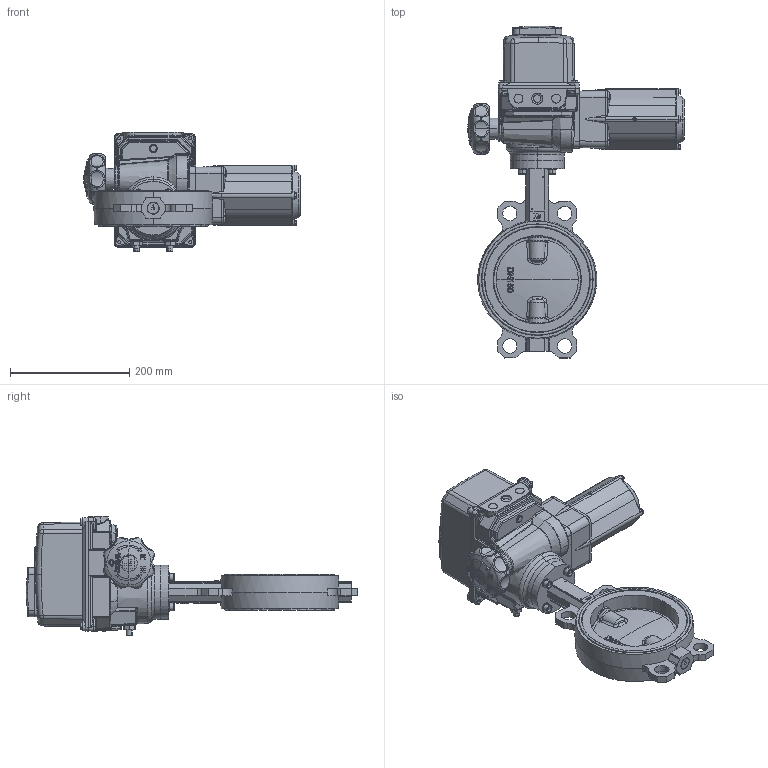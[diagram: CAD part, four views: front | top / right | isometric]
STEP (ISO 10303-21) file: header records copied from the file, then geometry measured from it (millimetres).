
FILE_DESCRIPTION (( 'STEP AP203' ), '1' );
FILE_NAME ('VPI-B24 DN150.step', '2016-09-29T14:59:34', ( 'TECOFI' ), ( '' ), 'SwSTEP 2.0', 'SolidWorks 2014', '' );
FILE_SCHEMA (( 'CONFIG_CONTROL_DESIGN' ));
Length unit declared in the file: millimetre
Products named in the file (1): VPI-B24 DN150
Bounding box: 362.25 x 555.7 x 199.8 mm (x, y, z)
Volume: 6572279.8 mm3; surface area: 464238 mm2
Topology: 14 solids, 14 shells, 2437 faces, 6287 edges, 3988 vertices
Faces by surface type: plane 1071, bspline 517, cylinder 471, cone 140, torus 130, sphere 108
Entity records: 104761 total; most frequent: CARTESIAN_POINT 49228, ORIENTED_EDGE 12480, DIRECTION 10364, EDGE_CURVE 6240, VERTEX_POINT 3988, AXIS2_PLACEMENT_3D 3880, EDGE_LOOP 2614, LINE 2604
